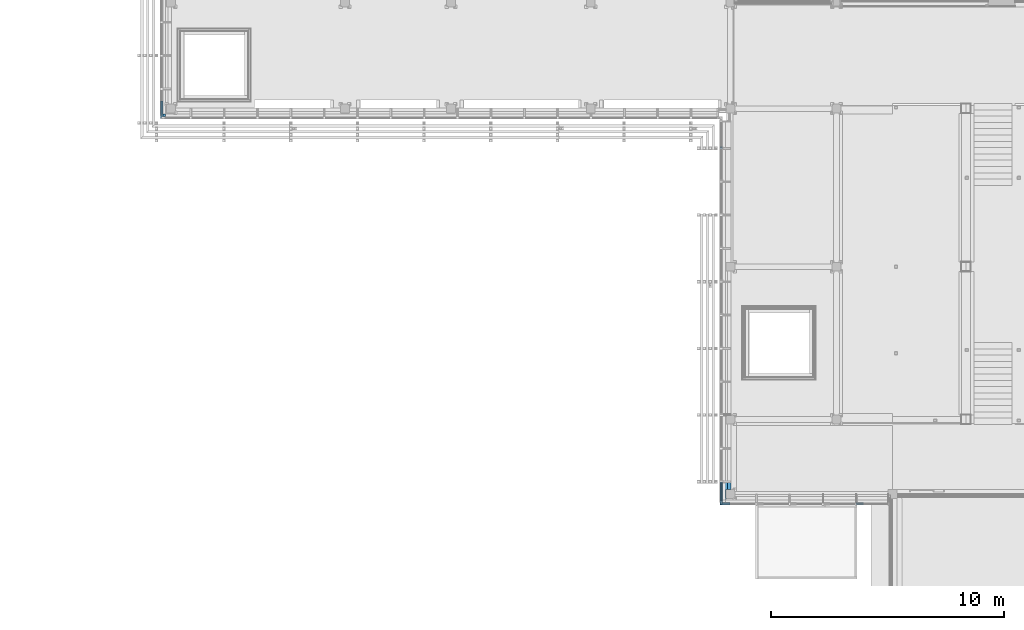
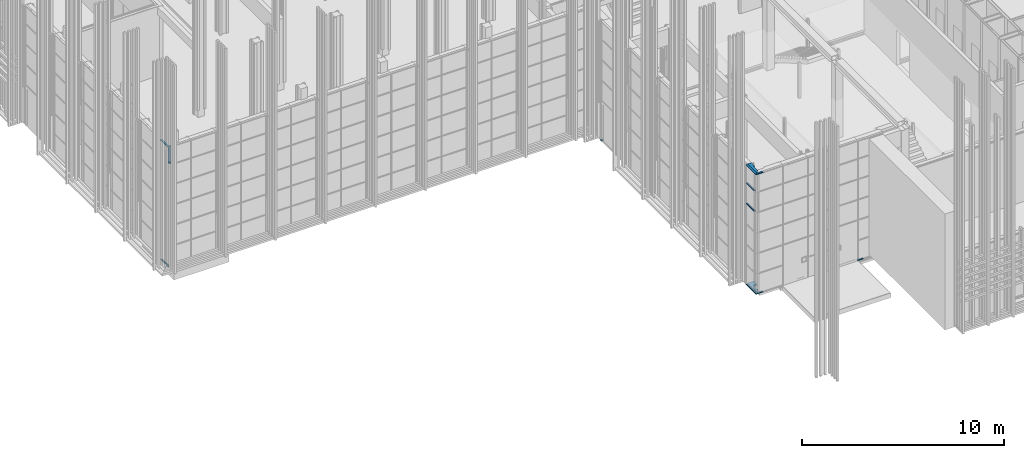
# One storey, part 93 of 260: 14 members, 3 elements without a shape of their own.
"""IFC2X3 building model written with IfcOpenShell, lengths in millimetres."""

from ifc_helpers import new_model, entity, si_unit, converted_unit, derived_unit, money_unit, direction, frame, origin_with_axes, place, context, subcontext, project, spatial, faceted_brep, material, type_object, element, aggregate, save


model = new_model("IFC2X3")

# Units and contexts
model_context = context("Model", 3, precision=0.01, world=origin_with_axes(), true_north=direction((0.0, 1.0)))
body_context = subcontext(model_context, "Body", "Model", "MODEL_VIEW")
ifc_project = project(units=[si_unit("LENGTHUNIT", "METRE", prefix="MILLI"), si_unit("AREAUNIT", "SQUARE_METRE"), si_unit("VOLUMEUNIT", "CUBIC_METRE"), converted_unit("PLANEANGLEUNIT", "DEGREE", entity("IfcPlaneAngleMeasure", 0.0174532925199), si_unit("PLANEANGLEUNIT", "RADIAN"), dimensions=[0, 0, 0, 0, 0, 0, 0]), money_unit("EUR"), converted_unit("TIMEUNIT", "Year", entity("IfcTimeMeasure", 31556926.0), si_unit("TIMEUNIT", "SECOND"), dimensions=[0, 0, 1, 0, 0, 0, 0]), si_unit("MASSUNIT", "GRAM", prefix="KILO"), si_unit("THERMODYNAMICTEMPERATUREUNIT", "DEGREE_CELSIUS"), si_unit("LUMINOUSINTENSITYUNIT", "LUMEN"), si_unit("ENERGYUNIT", "JOULE", prefix="MEGA"), derived_unit("THERMALCONDUCTANCEUNIT", [(si_unit("POWERUNIT", "WATT"), 1), (si_unit("LENGTHUNIT", "METRE"), -1), (si_unit("THERMODYNAMICTEMPERATUREUNIT", "KELVIN"), -1)]), derived_unit("SPECIFICHEATCAPACITYUNIT", [(si_unit("ENERGYUNIT", "JOULE"), 1), (si_unit("MASSUNIT", "GRAM", prefix="KILO"), -1), (si_unit("THERMODYNAMICTEMPERATUREUNIT", "KELVIN"), -1)]), derived_unit("MASSDENSITYUNIT", [(si_unit("MASSUNIT", "GRAM", prefix="KILO"), 1), (si_unit("VOLUMEUNIT", "CUBIC_METRE"), -1)])], contexts=[model_context])

# Site, building, storey
site_placement = place(None, origin_with_axes())
site = spatial("IfcSite", under=ifc_project, at=site_placement, Name="Kolde pst 67a", CompositionType="ELEMENT")
building_placement = place(site_placement, origin_with_axes())
building = spatial("IfcBuilding", under=site, at=building_placement, Name="Riigigümnaasium", CompositionType="ELEMENT")
storey_placement = place(building_placement, origin_with_axes())
storey = spatial("IfcBuildingStorey", under=building, at=storey_placement, Name="1. korrus", CompositionType="ELEMENT", Elevation=0.0)

# Curtain wall, members
curtain_wall_type = type_object("IfcCurtainWallType", Name="Curtain Wall Type", PredefinedType="NOTDEFINED")
curtain_wall_1_placement = place(storey_placement, frame((47829.9854655, 8727.77020058, -0.000749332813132), z_axis=(0.0, 0.0, 1.0), x_axis=(1.0, 0.0, 0.0)))
curtain_wall_1 = element("IfcCurtainWall", 1, at=curtain_wall_1_placement, inside=storey, type_object=curtain_wall_type, Name="KLAASFASSAAD")
ifc_material_1 = material(Name="_METALL - alumiinium")
member_type_1 = type_object("IfcMemberType", Name="Transom Frame 50 x 100", PredefinedType="MEMBER")
member_1_placement = place(curtain_wall_1_placement, frame((1.32891386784e-06, -1457.77010008, 4920.00074933), z_axis=(-9.11617420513e-10, 1.0, 0.0), x_axis=(0.0, 0.0, 1.0)))
member_1 = element("IfcMember", 2, at=member_1_placement, type_object=member_type_1, material=ifc_material_1, Name="RF RAAM HOR-821", ObjectType="MEMBER", context=body_context, shape_type="Brep", body=[
    faceted_brep([(-5.0, 16.5000008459, 927.939944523), (-5.0, -16.4999991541, 927.939944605), (-25.0, -16.4999991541, 927.939944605), (-25.0, -39.9999991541, 927.939944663), (25.0, -39.9999991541, 927.939944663), (25.0, -16.4999991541, 927.939944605), (5.0, -16.4999991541, 927.939944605), (5.0, 16.5000008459, 927.939944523), (25.0, 16.5000008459, 927.939944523), (25.0, 60.0000008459, 927.939944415), (-25.0, 60.0000008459, 927.939944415), (-25.0, 16.5000008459, 927.939944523), (-5.0, 16.500000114, 124.999999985), (-5.0, -16.4999998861, 125.000000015), (-25.0, -16.4999998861, 125.000000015), (-25.0, -39.999999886, 125.000000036), (25.0, -39.999999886, 125.000000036), (25.0, -16.4999998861, 125.000000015), (5.0, -16.4999998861, 125.000000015), (5.0, 16.500000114, 124.999999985), (25.0, 16.500000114, 124.999999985), (25.0, 60.000000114, 124.999999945), (-25.0, 60.000000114, 124.999999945), (-25.0, 16.500000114, 124.999999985)], [[[0, 1, 2, 3, 4, 5, 6, 7, 8, 9, 10, 11]], [[0, 12, 13, 1]], [[1, 13, 14, 2]], [[14, 15, 3, 2]], [[4, 3, 15, 16]], [[17, 5, 4, 16]], [[5, 17, 18, 6]], [[7, 6, 18, 19]], [[8, 7, 19, 20]], [[8, 20, 21, 9]], [[10, 9, 21, 22]], [[11, 10, 22, 23]], [[11, 23, 12, 0]], [[13, 12, 23, 22, 21, 20, 19, 18, 17, 16, 15, 14]]]),
])
member_2_placement = place(curtain_wall_1_placement, frame((1.32891386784e-06, -1457.77010008, 6150.00074933), z_axis=(-9.11617420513e-10, 1.0, 0.0), x_axis=(0.0, 0.0, 1.0)))
member_2 = element("IfcMember", 3, at=member_2_placement, type_object=member_type_1, material=ifc_material_1, Name="RF RAAM HOR-822", ObjectType="MEMBER", context=body_context, shape_type="Brep", body=[
    faceted_brep([(-5.0, 16.5000008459, 927.939944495), (-5.0, -16.4999991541, 927.939944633), (-25.0, -16.4999991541, 927.939944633), (-25.0, -39.9999991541, 927.939944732), (25.0, -39.9999991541, 927.939944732), (25.0, -16.4999991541, 927.939944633), (5.0, -16.4999991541, 927.939944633), (5.0, 16.5000008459, 927.939944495), (25.0, 16.5000008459, 927.939944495), (25.0, 60.0000008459, 927.939944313), (-25.0, 60.0000008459, 927.939944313), (-25.0, 16.5000008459, 927.939944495), (-5.0, 16.500000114, 124.999999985), (-5.0, -16.4999998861, 125.000000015), (-25.0, -16.4999998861, 125.000000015), (-25.0, -39.999999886, 125.000000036), (25.0, -39.999999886, 125.000000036), (25.0, -16.4999998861, 125.000000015), (5.0, -16.4999998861, 125.000000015), (5.0, 16.500000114, 124.999999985), (25.0, 16.500000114, 124.999999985), (25.0, 60.000000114, 124.999999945), (-25.0, 60.000000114, 124.999999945), (-25.0, 16.500000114, 124.999999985)], [[[0, 1, 2, 3, 4, 5, 6, 7, 8, 9, 10, 11]], [[0, 12, 13, 1]], [[1, 13, 14, 2]], [[14, 15, 3, 2]], [[4, 3, 15, 16]], [[17, 5, 4, 16]], [[5, 17, 18, 6]], [[7, 6, 18, 19]], [[8, 7, 19, 20]], [[8, 20, 21, 9]], [[10, 9, 21, 22]], [[11, 10, 22, 23]], [[11, 23, 12, 0]], [[13, 12, 23, 22, 21, 20, 19, 18, 17, 16, 15, 14]]]),
])
member_type_2 = type_object("IfcMemberType", Name="Boundary Frame 50 x 100", PredefinedType="MEMBER")
member_3_placement = place(curtain_wall_1_placement, frame((383.565582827, -1457.77020398, 0.000719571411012), z_axis=(-1.0, 2.70881141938e-07, 0.0), x_axis=(0.0, 0.0, 1.0)))
member_3 = element("IfcMember", 4, at=member_3_placement, type_object=member_type_2, material=ifc_material_1, Name="RF RAAM SERV-534", ObjectType="MEMBER", context=body_context, shape_type="Brep", body=[
    faceted_brep([(30.0, 16.5, 367.065585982), (50.0, 16.5, 367.065585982), (50.0, 60.0, 323.565597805), (0.0, 60.0, 323.565597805), (0.0, -40.0, 423.565570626), (50.0, -40.0, 423.565570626), (50.0, -16.5, 400.065577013), (30.0, -16.5, 400.065577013), (30.0, 16.5, 0.0), (50.0, 16.5, 0.0), (50.0, 60.0, 0.0), (0.0, 60.0, 0.0), (0.0, -40.0, 0.0), (50.0, -40.0, 0.0), (50.0, -16.5, 0.0), (30.0, -16.5, 0.0)], [[[0, 1, 2, 3, 4, 5, 6, 7]], [[0, 8, 9, 1]], [[9, 10, 2, 1]], [[10, 11, 3, 2]], [[11, 12, 4, 3]], [[12, 13, 5, 4]], [[6, 5, 13, 14]], [[14, 15, 7, 6]], [[7, 15, 8, 0]], [[8, 15, 14, 13, 12, 11, 10, 9]]]),
])
member_4_placement = place(curtain_wall_1_placement, frame((-1.25791999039e-05, 13798.7910806, 0.0), z_axis=(-9.11633787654e-10, 1.0, 0.0), x_axis=(0.0, 0.0, 1.0)))
member_4 = element("IfcMember", 5, at=member_4_placement, type_object=member_type_2, material=ifc_material_1, Name="RF RAAM SERV-408", ObjectType="MEMBER", context=body_context, shape_type="Brep", body=[
    faceted_brep([(30.0, 16.5000000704, 77.2480040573), (50.0, 16.5000000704, 77.2480040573), (50.0, 60.0000000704, 77.2480040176), (0.0, 60.0000000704, 77.2480040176), (0.0, -39.9999999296, 77.2480041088), (50.0, -39.9999999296, 77.2480041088), (50.0, -16.4999999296, 77.2480040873), (30.0, -16.4999999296, 77.2480040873), (30.0, 16.4999999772, -25.000000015), (50.0, 16.4999999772, -25.000000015), (50.0, 59.9999999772, -25.0000000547), (0.0, 59.9999999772, -25.0000000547), (0.0, -40.0000000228, -24.9999999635), (50.0, -40.0000000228, -24.9999999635), (50.0, -16.5000000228, -24.999999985), (30.0, -16.5000000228, -24.999999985)], [[[0, 1, 2, 3, 4, 5, 6, 7]], [[0, 8, 9, 1]], [[9, 10, 2, 1]], [[10, 11, 3, 2]], [[11, 12, 4, 3]], [[12, 13, 5, 4]], [[6, 5, 13, 14]], [[14, 15, 7, 6]], [[7, 15, 8, 0]], [[8, 15, 14, 13, 12, 11, 10, 9]]]),
])
member_5_placement = place(curtain_wall_1_placement, frame((-23999.9841542, 15102.5038042, 2.49889189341e-05), z_axis=(7.6476848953e-06, 0.999999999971, 0.0), x_axis=(0.0, 0.0, 1.0)))
member_5 = element("IfcMember", 6, at=member_5_placement, type_object=member_type_2, material=ifc_material_1, Name="RF RAAM SERV-635", ObjectType="MEMBER", context=body_context, shape_type="Brep", body=[
    faceted_brep([(30.0, 16.4999999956, 734.770410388), (50.0, 16.4999999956, 734.770410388), (50.0, 59.9999999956, 734.770410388), (0.0, 59.9999999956, 734.770410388), (0.0, -40.0000000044, 734.770410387), (50.0, -40.0000000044, 734.770410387), (50.0, -16.5000000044, 734.770410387), (30.0, -16.5000000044, 734.770410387), (30.0, 16.4999999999, 16.4999379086), (50.0, 16.4999999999, 16.4999379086), (50.0, 59.9999999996, 59.999774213), (0.0, 59.9999999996, 59.999774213), (0.0, -39.9999999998, -39.9998494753), (50.0, -39.9999999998, -39.9998494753), (50.0, -16.4999999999, -16.4999379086), (30.0, -16.4999999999, -16.4999379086)], [[[0, 1, 2, 3, 4, 5, 6, 7]], [[0, 8, 9, 1]], [[9, 10, 2, 1]], [[2, 10, 11, 3]], [[3, 11, 12, 4]], [[4, 12, 13, 5]], [[6, 5, 13, 14]], [[14, 15, 7, 6]], [[7, 15, 8, 0]], [[8, 15, 14, 13, 12, 11, 10, 9]]]),
])
member_6_placement = place(curtain_wall_1_placement, frame((1.32891386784e-06, -1457.77010008, 0.0), z_axis=(-9.11617419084e-10, 1.0, 0.0), x_axis=(0.0, 0.0, 1.0)))
member_6 = element("IfcMember", 7, at=member_6_placement, type_object=member_type_2, material=ifc_material_1, Name="RF RAAM SERV-553", ObjectType="MEMBER", context=body_context, shape_type="Brep", body=[
    faceted_brep([(30.0, 16.5000008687, 952.939946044), (50.0, 16.5000008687, 952.939946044), (50.0, 60.0000008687, 952.939946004), (0.0, 60.0000008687, 952.939946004), (0.0, -39.9999991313, 952.939946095), (50.0, -39.9999991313, 952.939946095), (50.0, -16.4999991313, 952.939946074), (30.0, -16.4999991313, 952.939946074), (30.0, 16.500000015, 16.4999955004), (50.0, 16.500000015, 16.4999955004), (50.0, 60.0000000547, 59.9999836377), (0.0, 60.0000000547, 59.9999836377), (0.0, -40.0000000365, -39.9999890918), (50.0, -40.0000000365, -39.9999890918), (50.0, -16.500000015, -16.4999955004), (30.0, -16.500000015, -16.4999955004)], [[[0, 1, 2, 3, 4, 5, 6, 7]], [[0, 8, 9, 1]], [[9, 10, 2, 1]], [[2, 10, 11, 3]], [[3, 11, 12, 4]], [[4, 12, 13, 5]], [[6, 5, 13, 14]], [[14, 15, 7, 6]], [[7, 15, 8, 0]], [[8, 15, 14, 13, 12, 11, 10, 9]]]),
])
member_7_placement = place(curtain_wall_1_placement, frame((6103.56558433, -1457.77175342, 0.000719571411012), z_axis=(-1.0, 2.70881143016e-07, 0.0), x_axis=(0.0, 0.0, 1.0)))
member_7 = element("IfcMember", 8, at=member_7_placement, type_object=member_type_2, material=ifc_material_1, Name="RF RAAM SERV-530", ObjectType="MEMBER", context=body_context, shape_type="Brep", body=[
    faceted_brep([(30.0, 16.5, 327.90835201), (50.0, 16.5, 327.90835201), (50.0, 60.0, 327.90835201), (0.0, 60.0, 327.90835201), (0.0, -40.0, 327.90835201), (50.0, -40.0, 327.90835201), (50.0, -16.5, 327.90835201), (30.0, -16.5, 327.90835201), (30.0, 16.5, 0.0), (50.0, 16.5, 0.0), (50.0, 60.0, 0.0), (0.0, 60.0, 0.0), (0.0, -40.0, 0.0), (50.0, -40.0, 0.0), (50.0, -16.5, 0.0), (30.0, -16.5, 0.0)], [[[0, 1, 2, 3, 4, 5, 6, 7]], [[0, 8, 9, 1]], [[9, 10, 2, 1]], [[10, 11, 3, 2]], [[11, 12, 4, 3]], [[12, 13, 5, 4]], [[6, 5, 13, 14]], [[14, 15, 7, 6]], [[7, 15, 8, 0]], [[8, 15, 14, 13, 12, 11, 10, 9]]]),
])
member_8_placement = place(curtain_wall_1_placement, frame((1.32891386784e-06, -1457.77010008, 7260.00008951), z_axis=(1.0, -2.70881141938e-07, 0.0), x_axis=(0.0, 0.0, -1.0)))
member_8 = element("IfcMember", 9, at=member_8_placement, type_object=member_type_2, material=ifc_material_1, Name="RF RAAM SERV-541", ObjectType="MEMBER", context=body_context, shape_type="Brep", body=[
    faceted_brep([(30.0, 16.5, 383.56558342), (50.0, 16.5, 383.56558342), (50.0, 60.0, 383.56558342), (0.0, 60.0, 383.56558342), (0.0, -40.0, 383.56558342), (50.0, -40.0, 383.56558342), (50.0, -16.5, 383.56558342), (30.0, -16.5, 383.56558342), (30.0, 16.5, 16.4999955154), (50.0, 16.5, 16.4999955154), (50.0, 60.0, 59.9999836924), (0.0, 60.0, 59.9999836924), (0.0, -40.0, -39.9999891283), (50.0, -40.0, -39.9999891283), (50.0, -16.5, -16.4999955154), (30.0, -16.5, -16.4999955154)], [[[0, 1, 2, 3, 4, 5, 6, 7]], [[0, 8, 9, 1]], [[9, 10, 2, 1]], [[2, 10, 11, 3]], [[3, 11, 12, 4]], [[4, 12, 13, 5]], [[6, 5, 13, 14]], [[14, 15, 7, 6]], [[7, 15, 8, 0]], [[8, 15, 14, 13, 12, 11, 10, 9]]]),
])
member_9_placement = place(curtain_wall_1_placement, frame((4.6019721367e-07, -504.830151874, 7259.99994321), z_axis=(9.11617417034e-10, -1.0, 0.0), x_axis=(0.0, 0.0, -1.0)))
member_9 = element("IfcMember", 10, at=member_9_placement, type_object=member_type_2, material=ifc_material_1, Name="RF RAAM SERV-582", ObjectType="MEMBER", context=body_context, shape_type="Brep", body=[
    faceted_brep([(30.0, 16.4999991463, 936.439952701), (50.0, 16.4999991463, 936.439952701), (50.0, 59.999999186, 892.939964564), (0.0, 59.999999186, 892.939964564), (0.0, -40.0000009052, 992.939937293), (50.0, -40.0000009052, 992.939937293), (50.0, -16.5000008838, 969.439943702), (30.0, -16.5000008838, 969.439943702), (30.0, 16.5, 1.50386370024e-08), (50.0, 16.5, 1.50386370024e-08), (50.0, 60.0, 5.46940270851e-08), (0.0, 60.0, 5.46940270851e-08), (0.0, -40.0, -3.6466829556e-08), (50.0, -40.0, -3.6466829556e-08), (50.0, -16.5, -1.50439660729e-08), (30.0, -16.5, -1.50439660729e-08)], [[[0, 1, 2, 3, 4, 5, 6, 7]], [[0, 8, 9, 1]], [[9, 10, 2, 1]], [[10, 11, 3, 2]], [[11, 12, 4, 3]], [[12, 13, 5, 4]], [[6, 5, 13, 14]], [[14, 15, 7, 6]], [[7, 15, 8, 0]], [[8, 15, 14, 13, 12, 11, 10, 9]]]),
])
member_10_placement = place(curtain_wall_1_placement, frame((-23999.978535, 15837.2742145, 7259.99963417), z_axis=(-7.6476848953e-06, -0.999999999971, 0.0), x_axis=(0.0, 0.0, -1.0)))
member_10 = element("IfcMember", 11, at=member_10_placement, type_object=member_type_2, material=ifc_material_1, Name="RF RAAM SERV-662", ObjectType="MEMBER", context=body_context, shape_type="Brep", body=[
    faceted_brep([(30.0, 16.5054931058, 718.270346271), (50.0, 16.5054931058, 718.270346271), (50.0, 60.0051604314, 674.770177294), (0.0, 60.0051604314, 674.770177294), (0.0, -39.9940748, 774.770565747), (50.0, -39.9940748, 774.770565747), (50.0, -16.4942545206, 751.270474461), (30.0, -16.4942545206, 751.270474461), (30.0, 16.4999999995, -0.000126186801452), (50.0, 16.4999999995, -0.000126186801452), (50.0, 59.9999999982, -0.000458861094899), (0.0, 59.9999999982, -0.000458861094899), (0.0, -39.9999999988, 0.000305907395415), (50.0, -39.9999999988, 0.000305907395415), (50.0, -16.4999999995, 0.000126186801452), (30.0, -16.4999999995, 0.000126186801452)], [[[0, 1, 2, 3, 4, 5, 6, 7]], [[0, 8, 9, 1]], [[9, 10, 2, 1]], [[10, 11, 3, 2]], [[11, 12, 4, 3]], [[12, 13, 5, 4]], [[6, 5, 13, 14]], [[14, 15, 7, 6]], [[7, 15, 8, 0]], [[8, 15, 14, 13, 12, 11, 10, 9]]]),
])
aggregate(curtain_wall_1, [member_3, member_4, member_5, member_1, member_2, member_6, member_7, member_8, member_9, member_10])

# Curtain wall, member
curtain_wall_2_placement = place(storey_placement, frame((23890.0026791, 27220.1832522, -0.000253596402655), z_axis=(0.0, 0.0, 1.0), x_axis=(1.0, 0.0, 0.0)))
curtain_wall_2 = element("IfcCurtainWall", 12, at=curtain_wall_2_placement, inside=storey, type_object=curtain_wall_type, Name="Klaasfassaadi puitkarkass")
ifc_material_2 = material(Name="_KANDETARIND - liimpuit vastavalt EK osale")
member_type_3 = type_object("IfcMemberType", Name="120 x 120", PredefinedType="MULLION")
member_11_placement = place(curtain_wall_2_placement, frame((-1.70701603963e-05, -3330.16844724, 6150.0002536), z_axis=(0.0, 0.0, 1.0), x_axis=(0.707106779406, -0.707106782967, 0.0)))
member_11 = element("IfcMember", 13, at=member_11_placement, type_object=member_type_3, material=ifc_material_2, Name="RF RAAM NURK-864", ObjectType="MULLION", context=body_context, shape_type="Brep", body=[
    faceted_brep([(81.3172798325, 88.388347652, 0.0), (0.0, 169.705627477, 0.0), (0.0, 169.705627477, 75.9259259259), (81.3172798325, 88.388347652, 75.9259259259), (0.0, 7.07106781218, 0.0), (-81.3172798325, 88.388347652, 0.0), (-81.3172798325, 88.388347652, 75.9259259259), (0.0, 7.07106781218, 75.9259259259)], [[[0, 1, 2, 3]], [[0, 4, 5, 1]], [[1, 5, 6, 2]], [[3, 2, 6, 7]], [[4, 0, 3, 7]], [[5, 4, 7, 6]]]),
])

# Curtain wall, members
curtain_wall_3_placement = place(storey_placement, frame((47889.9854796, 7778.28071079, -0.000681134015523), z_axis=(0.0, 0.0, 1.0), x_axis=(1.0, 0.0, 0.0)))
curtain_wall_3 = element("IfcCurtainWall", 14, at=curtain_wall_3_placement, inside=storey, type_object=curtain_wall_type, Name="Klaasfassaadi puitkarkass")
member_type_4 = type_object("IfcMemberType", Name="Boundary Frame 60 x 360", PredefinedType="MEMBER")
member_12_placement = place(curtain_wall_3_placement, frame((4.81776396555e-07, -448.280635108, 0.0), z_axis=(-1.07471259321e-09, 1.0, 0.0), x_axis=(0.0, 0.0, 1.0)))
member_12 = element("IfcMember", 15, at=member_12_placement, type_object=member_type_4, material=ifc_material_2, Name="RF RAAM SERV-880", ObjectType="MEMBER", context=body_context, shape_type="Brep", body=[
    faceted_brep([(60.0, 149.999999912, 189.999924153), (60.0, 150.000000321, 569.999924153), (60.0, 360.000000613, 569.999923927), (60.0, 360.000000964, 896.561269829), (60.0, 9.63545687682e-07, 896.561270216), (60.0, 0.0, 0.0), (60.0, 189.999974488, 189.99992411), (0.000681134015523, 149.999999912, 189.999924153), (0.000681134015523, 150.000000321, 569.999924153), (0.000681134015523, 360.000000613, 569.999923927), (0.0, 360.000000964, 896.561269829), (0.0, 9.63545687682e-07, 896.561270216), (0.0, 0.0, 0.0), (0.000681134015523, 189.999974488, 189.99992411)], [[[0, 1, 2, 3, 4, 5, 6]], [[1, 0, 7, 8]], [[9, 2, 1, 8]], [[2, 9, 10, 3]], [[4, 3, 10, 11]], [[11, 12, 5, 4]], [[13, 6, 5, 12]], [[0, 6, 13, 7]], [[7, 13, 12, 11, 10, 9, 8]]]),
])
member_13_placement = place(curtain_wall_3_placement, frame((-4.81769291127e-07, 448.280635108, 7260.00002512), z_axis=(1.07471259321e-09, -1.0, 0.0), x_axis=(0.0, 0.0, -1.0)))
member_13 = element("IfcMember", 16, at=member_13_placement, type_object=member_type_4, material=ifc_material_2, Name="RF RAAM SERV-909", ObjectType="MEMBER", context=body_context, shape_type="Brep", body=[
    faceted_brep([(0.0, 149.999999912, 706.561346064), (0.0, 150.000000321, 326.561346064), (0.0, 220.000018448, 326.561346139), (0.0, 220.000018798, 2.36434871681e-07), (0.0, 0.0, 0.0), (0.0, -9.63545687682e-07, 896.561270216), (0.0, 189.999973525, 706.561346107), (59.9993439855, 149.999999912, 706.561346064), (59.9993439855, 150.000000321, 326.561346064), (59.9993439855, 220.000018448, 326.561346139), (59.9993439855, 220.000018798, 2.36434871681e-07), (60.0, 0.0, 0.0), (60.0, -9.63545687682e-07, 896.561270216), (60.0, 189.999973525, 706.561346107)], [[[0, 1, 2, 3, 4, 5, 6]], [[1, 0, 7, 8]], [[9, 2, 1, 8]], [[2, 9, 10, 3]], [[4, 3, 10, 11]], [[5, 4, 11, 12]], [[13, 6, 5, 12]], [[0, 6, 13, 7]], [[7, 13, 12, 11, 10, 9, 8]]]),
])
aggregate(curtain_wall_3, [member_12, member_13])

# Member
member_type_5 = type_object("IfcMemberType", Name="Corner Frame 120 x 120", PredefinedType="MEMBER")
member_14_placement = place(curtain_wall_2_placement, frame((-1.70701603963e-05, -3330.16844724, 6225.92617952), z_axis=(0.0, 0.0, 1.0), x_axis=(0.707106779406, -0.707106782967, 0.0)))
member_14 = element("IfcMember", 17, at=member_14_placement, type_object=member_type_5, material=ifc_material_2, Name="RF RAAM NURK-920", ObjectType="MEMBER", context=body_context, shape_type="Brep", body=[
    faceted_brep([(84.8528135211, 84.8528139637, 0.0), (0.0, 169.705627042, 0.0), (0.0, 169.705627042, 974.073866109), (84.8528135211, 84.8528139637, 974.073866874), (0.0, 0.0, 0.0), (-84.8528135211, 84.8528139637, 0.0), (-84.8528135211, 84.8528139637, 974.073866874), (0.0, 0.0, 974.07386764)], [[[0, 1, 2, 3]], [[0, 4, 5, 1]], [[1, 5, 6, 2]], [[3, 2, 6, 7]], [[4, 0, 3, 7]], [[5, 4, 7, 6]]]),
])

aggregate(curtain_wall_2, [member_11, member_14])

save(model, "model.ifc")
